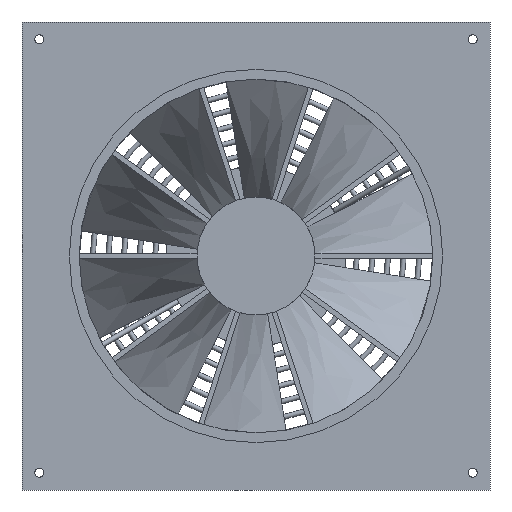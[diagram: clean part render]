
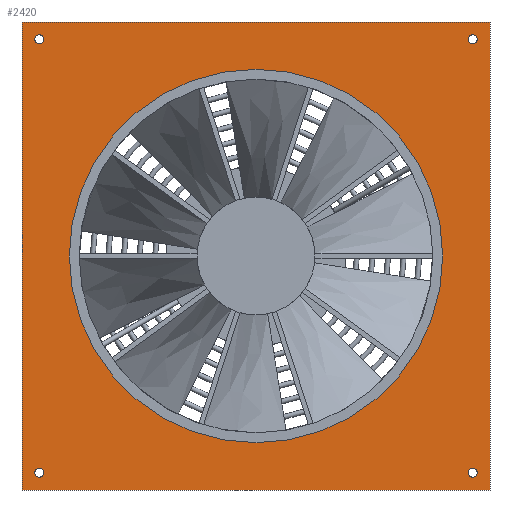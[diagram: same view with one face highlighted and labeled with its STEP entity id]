
A CAD part, front view. The second image highlights one B-rep face of the part: STEP entity #2420.
In plain terms, the highlighted planar face has unit normal (0, -1, 0).
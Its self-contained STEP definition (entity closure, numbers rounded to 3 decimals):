
#135=LINE('',#5495,#273);
#137=LINE('',#5502,#275);
#139=LINE('',#5508,#277);
#140=LINE('',#5510,#278);
#273=VECTOR('',#3016,10.);
#275=VECTOR('',#3024,10.);
#277=VECTOR('',#3030,10.);
#278=VECTOR('',#3033,10.);
#393=PLANE('',#2609);
#456=FACE_BOUND('',#953,.T.);
#457=FACE_BOUND('',#954,.T.);
#458=FACE_BOUND('',#955,.T.);
#459=FACE_BOUND('',#956,.T.);
#460=FACE_BOUND('',#957,.T.);
#536=CIRCLE('',#2598,4.5);
#537=CIRCLE('',#2600,4.5);
#538=CIRCLE('',#2602,4.5);
#539=CIRCLE('',#2604,4.5);
#541=CIRCLE('',#2607,189.5);
#770=FACE_OUTER_BOUND('',#952,.T.);
#952=EDGE_LOOP('',(#2244,#2245,#2246,#2247));
#953=EDGE_LOOP('',(#2248));
#954=EDGE_LOOP('',(#2249));
#955=EDGE_LOOP('',(#2250));
#956=EDGE_LOOP('',(#2251));
#957=EDGE_LOOP('',(#2252));
#1183=VERTEX_POINT('',#5492);
#1184=VERTEX_POINT('',#5494);
#1186=VERTEX_POINT('',#5500);
#1188=VERTEX_POINT('',#5506);
#1204=VERTEX_POINT('',#5669);
#1205=VERTEX_POINT('',#5672);
#1206=VERTEX_POINT('',#5675);
#1207=VERTEX_POINT('',#5678);
#1209=VERTEX_POINT('',#5683);
#1503=EDGE_CURVE('',#1184,#1183,#135,.T.);
#1507=EDGE_CURVE('',#1183,#1186,#137,.T.);
#1510=EDGE_CURVE('',#1186,#1188,#139,.T.);
#1511=EDGE_CURVE('',#1188,#1184,#140,.T.);
#1545=EDGE_CURVE('',#1204,#1204,#536,.T.);
#1546=EDGE_CURVE('',#1205,#1205,#537,.T.);
#1547=EDGE_CURVE('',#1206,#1206,#538,.T.);
#1548=EDGE_CURVE('',#1207,#1207,#539,.T.);
#1550=EDGE_CURVE('',#1209,#1209,#541,.T.);
#2244=ORIENTED_EDGE('',*,*,#1503,.T.);
#2245=ORIENTED_EDGE('',*,*,#1507,.T.);
#2246=ORIENTED_EDGE('',*,*,#1510,.T.);
#2247=ORIENTED_EDGE('',*,*,#1511,.T.);
#2248=ORIENTED_EDGE('',*,*,#1545,.T.);
#2249=ORIENTED_EDGE('',*,*,#1546,.T.);
#2250=ORIENTED_EDGE('',*,*,#1547,.T.);
#2251=ORIENTED_EDGE('',*,*,#1548,.T.);
#2252=ORIENTED_EDGE('',*,*,#1550,.T.);
#2420=ADVANCED_FACE('',(#770,#456,#457,#458,#459,#460),#393,.F.);
#2598=AXIS2_PLACEMENT_3D('',#5670,#3088,#3089);
#2600=AXIS2_PLACEMENT_3D('',#5673,#3092,#3093);
#2602=AXIS2_PLACEMENT_3D('',#5676,#3096,#3097);
#2604=AXIS2_PLACEMENT_3D('',#5679,#3100,#3101);
#2607=AXIS2_PLACEMENT_3D('',#5684,#3106,#3107);
#2609=AXIS2_PLACEMENT_3D('',#5686,#3110,#3111);
#3016=DIRECTION('',(1.,0.,0.));
#3024=DIRECTION('',(0.,0.,1.));
#3030=DIRECTION('',(-1.,0.,0.));
#3033=DIRECTION('',(0.,0.,-1.));
#3088=DIRECTION('center_axis',(0.,1.,0.));
#3089=DIRECTION('ref_axis',(1.,0.,0.));
#3092=DIRECTION('center_axis',(0.,1.,0.));
#3093=DIRECTION('ref_axis',(1.,0.,0.));
#3096=DIRECTION('center_axis',(0.,1.,0.));
#3097=DIRECTION('ref_axis',(1.,0.,0.));
#3100=DIRECTION('center_axis',(0.,1.,0.));
#3101=DIRECTION('ref_axis',(1.,0.,0.));
#3106=DIRECTION('center_axis',(0.,1.,0.));
#3107=DIRECTION('ref_axis',(-1.,0.,0.));
#3110=DIRECTION('center_axis',(0.,1.,0.));
#3111=DIRECTION('ref_axis',(0.,0.,1.));
#5492=CARTESIAN_POINT('',(237.5,0.,-237.5));
#5494=CARTESIAN_POINT('',(-237.5,0.,-237.5));
#5495=CARTESIAN_POINT('',(-237.5,0.,-237.5));
#5500=CARTESIAN_POINT('',(237.5,0.,237.5));
#5502=CARTESIAN_POINT('',(237.5,0.,-237.5));
#5506=CARTESIAN_POINT('',(-237.5,0.,237.5));
#5508=CARTESIAN_POINT('',(237.5,0.,237.5));
#5510=CARTESIAN_POINT('',(-237.5,0.,237.5));
#5669=CARTESIAN_POINT('',(-215.5,0.,-220.));
#5670=CARTESIAN_POINT('Origin',(-220.,0.,-220.));
#5672=CARTESIAN_POINT('',(224.5,0.,220.));
#5673=CARTESIAN_POINT('Origin',(220.,0.,220.));
#5675=CARTESIAN_POINT('',(224.5,0.,-220.));
#5676=CARTESIAN_POINT('Origin',(220.,0.,-220.));
#5678=CARTESIAN_POINT('',(-215.5,0.,220.));
#5679=CARTESIAN_POINT('Origin',(-220.,0.,220.));
#5683=CARTESIAN_POINT('',(189.5,0.,0.));
#5684=CARTESIAN_POINT('Origin',(0.,0.,0.));
#5686=CARTESIAN_POINT('Origin',(0.,0.,0.));
